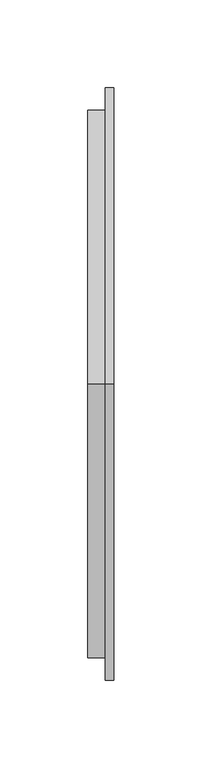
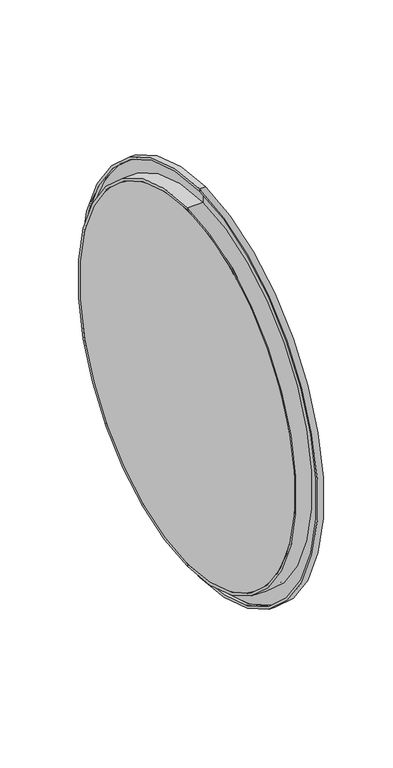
"""IFC4 building model written with IfcOpenShell, lengths in millimetres: air terminal geometry, BL_РешеткаКругаля_Выброс_ALAV : BL_РешеткаКругаля_Выброс_ALAV."""

from ifc_helpers import new_model, si_unit, point, frame, origin, origin_2d, place, context, project, spatial, polyline, circle_curve, trimmed, segment, composite_curve, outline, extrude, source, transform, mapped, element, save
from ifc_brep_helpers import plane_surface, cylinder_surface, revolved_surface, advanced_brep


def air_terminal_6631711a(model_context):
    return source(origin(), model_context, "Body", "SolidModel", [
        advanced_brep(
        [(15.0, 0.0, -170.0), (15.0, 0.0, 170.0), (15.0, 0.0, 155.0), (15.0, 0.0, -155.0), (10.0, 0.0, -170.0), (10.0, 0.0, 170.0), (10.0, 0.0, -168.0), (10.0, 0.0, 168.0), (13.0, 0.0, -168.0), (13.0, 0.0, 168.0), (13.0, 0.0, -157.0), (13.0, 0.0, 157.0), (0.0, 0.0, -157.0), (0.0, 0.0, 157.0), (0.0, 0.0, -155.0), (0.0, 0.0, 155.0)],
        [
            (0, 1, circle_curve(frame((15.0, 0.0, 0.0), z_axis=(1.0, 0.0, 0.0), x_axis=(0.0, 0.0, 1.0)), 170.0)),
            (1, 2),
            (2, 3, circle_curve(frame((15.0, 0.0, 0.0), z_axis=(-1.0, 0.0, 0.0), x_axis=(0.0, 0.0, 1.0)), 155.0)),
            (3, 0),
            (1, 0, circle_curve(frame((15.0, 0.0, 0.0), z_axis=(1.0, 0.0, 0.0), x_axis=(0.0, 0.0, 1.0)), 170.0)),
            (3, 2, circle_curve(frame((15.0, 0.0, 0.0), z_axis=(-1.0, 0.0, 0.0), x_axis=(0.0, 0.0, 1.0)), 155.0)),
            (4, 5, circle_curve(frame((10.0, 0.0, 0.0), z_axis=(1.0, 0.0, 0.0), x_axis=(0.0, 0.0, 1.0)), 170.0)),
            (5, 1),
            (0, 4),
            (5, 4, circle_curve(frame((10.0, 0.0, 0.0), z_axis=(1.0, 0.0, 0.0), x_axis=(0.0, 0.0, 1.0)), 170.0)),
            (6, 7, circle_curve(frame((10.0, 0.0, 0.0), z_axis=(1.0, 0.0, 0.0), x_axis=(0.0, 0.0, 1.0)), 168.0)),
            (7, 5),
            (4, 6),
            (7, 6, circle_curve(frame((10.0, 0.0, 0.0), z_axis=(1.0, 0.0, 0.0), x_axis=(0.0, 0.0, 1.0)), 168.0)),
            (8, 9, circle_curve(frame((13.0, 0.0, 0.0), z_axis=(1.0, 0.0, 0.0), x_axis=(0.0, 0.0, 1.0)), 168.0)),
            (9, 7),
            (6, 8),
            (9, 8, circle_curve(frame((13.0, 0.0, 0.0), z_axis=(1.0, 0.0, 0.0), x_axis=(0.0, 0.0, 1.0)), 168.0)),
            (10, 11, circle_curve(frame((13.0, 0.0, 0.0), z_axis=(1.0, 0.0, 0.0), x_axis=(0.0, 0.0, 1.0)), 157.0)),
            (11, 9),
            (8, 10),
            (11, 10, circle_curve(frame((13.0, 0.0, 0.0), z_axis=(1.0, 0.0, 0.0), x_axis=(0.0, 0.0, 1.0)), 157.0)),
            (12, 13, circle_curve(frame((0.0, 0.0, 0.0), z_axis=(1.0, 0.0, 0.0), x_axis=(0.0, 0.0, 1.0)), 157.0)),
            (13, 11),
            (10, 12),
            (13, 12, circle_curve(frame((0.0, 0.0, 0.0), z_axis=(1.0, 0.0, 0.0), x_axis=(0.0, 0.0, 1.0)), 157.0)),
            (14, 15, circle_curve(frame((0.0, 0.0, 0.0), z_axis=(1.0, 0.0, 0.0), x_axis=(0.0, 0.0, 1.0)), 155.0)),
            (15, 13),
            (12, 14),
            (15, 14, circle_curve(frame((0.0, 0.0, 0.0), z_axis=(1.0, 0.0, 0.0), x_axis=(0.0, 0.0, 1.0)), 155.0)),
            (2, 15),
            (14, 3),
        ],
        [
            plane_surface(frame((15.0, 0.0, 0.0), z_axis=(1.0, 0.0, 0.0), x_axis=(0.0, 0.0, 1.0))),
            cylinder_surface(frame((-1534.6345384, 0.0, 0.0), z_axis=(-1.0, 0.0, 0.0), x_axis=(0.0, 0.0, 1.0)), 170.0),
            plane_surface(frame((10.0, 0.0, 0.0), z_axis=(-1.0, 0.0, 0.0), x_axis=(0.0, 0.0, 1.0))),
            revolved_surface(polyline([(10.0, 0.0, 168.0), (13.0, 0.0, 168.0)]), (-1534.6345384, 0.0, 0.0), (-1.0, 0.0, 0.0)),
            plane_surface(frame((13.0, 0.0, 0.0), z_axis=(-1.0, 0.0, 0.0), x_axis=(0.0, 0.0, 1.0))),
            cylinder_surface(frame((-1534.6345384, 0.0, 0.0), z_axis=(-1.0, 0.0, 0.0), x_axis=(0.0, 0.0, 1.0)), 157.0),
            plane_surface(frame((0.0, 0.0, 0.0), z_axis=(-1.0, 0.0, 0.0), x_axis=(0.0, 0.0, 1.0))),
            revolved_surface(polyline([(0.0, 0.0, 155.0), (15.0, 0.0, 155.0)]), (-1534.6345384, 0.0, 0.0), (-1.0, 0.0, 0.0)),
        ],
        [
            (0, [[1, 2, 3, 4]]),
            (0, [[5, -4, 6, -2]]),
            (1, [[7, 8, -1, 9]]),
            (1, [[10, -9, -5, -8]]),
            (2, [[11, 12, -7, 13]]),
            (2, [[14, -13, -10, -12]]),
            (3, [[15, 16, -11, 17]]),
            (3, [[18, -17, -14, -16]]),
            (4, [[19, 20, -15, 21]]),
            (4, [[22, -21, -18, -20]]),
            (5, [[23, 24, -19, 25]]),
            (5, [[26, -25, -22, -24]]),
            (6, [[27, 28, -23, 29]]),
            (6, [[30, -29, -26, -28]]),
            (7, [[-3, 31, -27, 32]]),
            (7, [[-6, -32, -30, -31]]),
        ],
    ),
        extrude(outline(composite_curve([segment(trimmed(circle_curve(origin_2d(), 155.0), [point((-155.0, 0.0))], [point((155.0, 0.0))], False, "CARTESIAN"), True, "CONTINUOUS"), segment(trimmed(circle_curve(origin_2d(), 155.0), [point((155.0, 0.0))], [point((-155.0, 0.0))], False, "CARTESIAN"), True, "CONTINUOUS")], self_intersect=False)), frame((0.0, 0.0, 0.0), z_axis=(1.0, 0.0, 0.0), x_axis=(0.0, 1.0, 0.0)), (0.0, 0.0, 1.0), 5.0),
        extrude(outline(composite_curve([segment(trimmed(circle_curve(origin_2d(), 155.0), [point((-155.0, 0.0))], [point((155.0, 0.0))], False, "CARTESIAN"), True, "CONTINUOUS"), segment(trimmed(circle_curve(origin_2d(), 155.0), [point((155.0, 0.0))], [point((-155.0, 0.0))], False, "CARTESIAN"), True, "CONTINUOUS")], self_intersect=False)), frame((5.0, 0.0, 0.0), z_axis=(1.0, 0.0, 0.0), x_axis=(0.0, 1.0, 0.0)), (0.0, 0.0, 1.0), 10.0),
    ])


if __name__ == "__main__":
    model = new_model("IFC4")
    model_context = context("Model", 3, world=origin())
    ifc_project = project(units=[si_unit("LENGTHUNIT", "METRE", prefix="MILLI")], contexts=[model_context])
    site = spatial("IfcSite", under=ifc_project)
    building = spatial("IfcBuilding", under=site)
    placement = place(None, origin())
    air_terminal_shape = air_terminal_6631711a(model_context)
    element("IfcAirTerminal", 1, ObjectType="BL_РешеткаКругаля_Выброс_ALAV : BL_РешеткаКругаля_Выброс_ALAV", at=placement, inside=building, context=model_context, shape_type="MappedRepresentation", body=[
        mapped(air_terminal_shape, transform((0.0, 0.0, 0.0), x_axis=(1.0, 0.0, 0.0), y_axis=(0.0, 1.0, 0.0), z_axis=(0.0, 0.0, 1.0))),
    ])
    save(model, "model.ifc")
